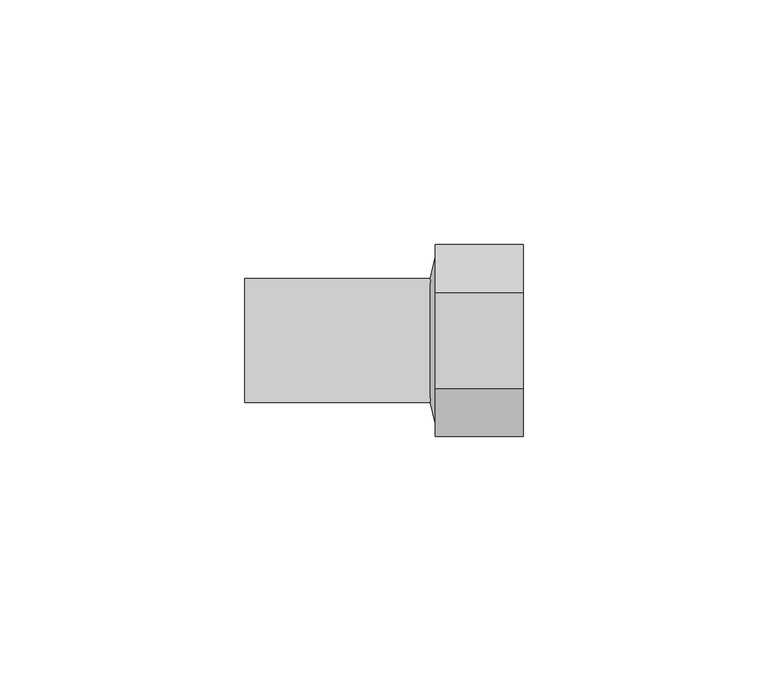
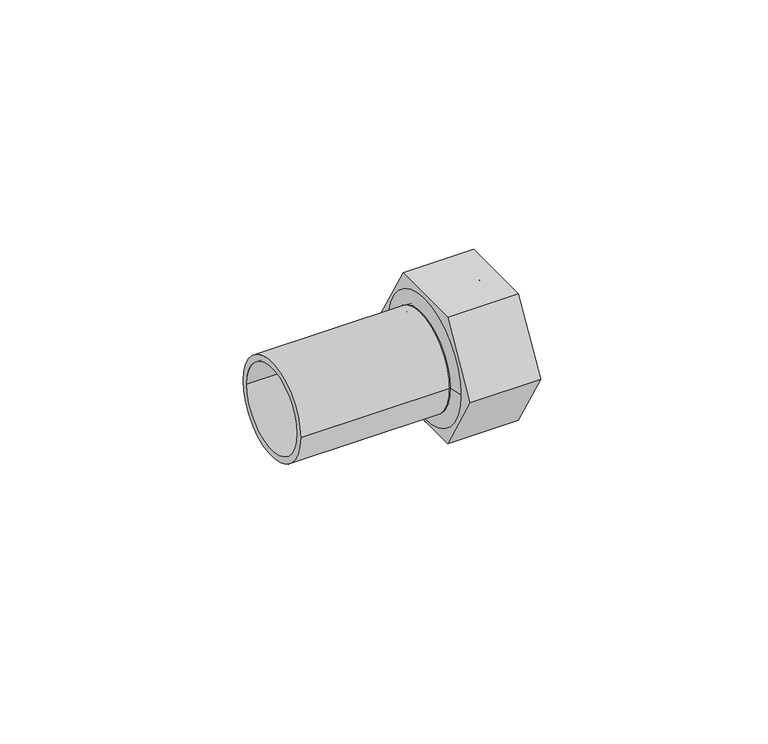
"""IFC4 building model written with IfcOpenShell, lengths in millimetres: pipe fitting geometry, VALTEC_VTi.907.I_Вставка с внутренней резьбой_Нержавеющая сталь : VTi.907.I."""

from ifc_helpers import new_model, si_unit, point, frame, origin, origin_2d, place, context, project, spatial, polyline, circle_curve, trimmed, segment, composite_curve, outline, extrude, source, transform, mapped, element, save
from ifc_brep_helpers import plane_surface, revolved_surface, advanced_brep


def pipe_fitting_86c83f39(model_context):
    return source(origin(), model_context, "Body", "SolidModel", [
        extrude(outline(polyline([(-19.6299092, 0.0), (-9.8149546, 17.0), (9.8149546, 17.0), (19.6299092, 0.0), (9.8149546, -17.0), (-9.8149546, -17.0), (-19.6299092, 0.0)]), holes=[composite_curve([segment(trimmed(circle_curve(origin_2d(), 12.5), [point((12.5, 0.0))], [point((-12.5, 0.0))], True, "CARTESIAN"), True, "CONTINUOUS"), segment(trimmed(circle_curve(origin_2d(), 12.5), [point((-12.5, 0.0))], [point((12.5, 0.0))], True, "CARTESIAN"), True, "CONTINUOUS")], self_intersect=False)]), frame((-9.0, 0.0, 0.0), z_axis=(1.0, 0.0, 0.0), x_axis=(0.0, 1.0, 0.0)), (0.0, 0.0, 1.0), 18.0),
        advanced_brep(
        [(-9.0, -17.0, 0.0), (-9.0, 17.0, 0.0), (-10.0, -12.65, 0.0), (-10.0, 12.65, 0.0)],
        [
            (0, 1, circle_curve(frame((-9.0, 0.0, 0.0), z_axis=(1.0, 0.0, 0.0), x_axis=(0.0, -1.0, 0.0)), 17.0)),
            (1, 0, circle_curve(frame((-9.0, 0.0, 0.0), z_axis=(1.0, 0.0, 0.0), x_axis=(0.0, 1.0, 0.0)), 17.0)),
            (2, 3, circle_curve(frame((-10.0, 0.0, 0.0), z_axis=(-1.0, 0.0, 0.0), x_axis=(0.0, 1.0, 0.0)), 12.65)),
            (3, 2, circle_curve(frame((-10.0, 0.0, 0.0), z_axis=(-1.0, 0.0, 0.0), x_axis=(0.0, -1.0, 0.0)), 12.65)),
            (3, 1),
            (0, 2),
        ],
        [
            plane_surface(frame((-9.0, 0.0, 0.0), z_axis=(1.0, 0.0, 0.0), x_axis=(0.0, 0.0, -1.0))),
            plane_surface(frame((-10.0, 0.0, 0.0), z_axis=(-1.0, 0.0, 0.0), x_axis=(0.0, 0.0, -1.0))),
            revolved_surface(polyline([(-10.0, 12.650000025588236, 0.0), (-9.0, 17.0, 0.0)]), (-12.908046, 0.0, 0.0), (1.0, 0.0, 0.0)),
            revolved_surface(polyline([(-10.0, -12.650000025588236, 0.0), (-9.0, -17.0, 0.0)]), (-12.908046, 0.0, 0.0), (1.0, 0.0, 0.0)),
        ],
        [
            (0, [[1, 2]]),
            (1, [[3, 4]]),
            (2, [[-4, 5, -1, 6]]),
            (3, [[-3, -6, -2, -5]]),
        ],
    ),
        extrude(outline(composite_curve([segment(trimmed(circle_curve(origin_2d(), 12.65), [point((-12.65, 0.0))], [point((12.65, 0.0))], False, "CARTESIAN"), True, "CONTINUOUS"), segment(trimmed(circle_curve(origin_2d(), 12.65), [point((12.65, 0.0))], [point((-12.65, 0.0))], False, "CARTESIAN"), True, "CONTINUOUS")], self_intersect=False), holes=[composite_curve([segment(trimmed(circle_curve(origin_2d(), 11.0), [point((-11.0, 0.0))], [point((11.0, 0.0))], True, "CARTESIAN"), True, "CONTINUOUS"), segment(trimmed(circle_curve(origin_2d(), 11.0), [point((11.0, 0.0))], [point((-11.0, 0.0))], True, "CARTESIAN"), True, "CONTINUOUS")], self_intersect=False)]), frame((-48.0, 0.0, 0.0), z_axis=(1.0, 0.0, 0.0), x_axis=(0.0, 1.0, 0.0)), (0.0, 0.0, 1.0), 38.0),
    ])


if __name__ == "__main__":
    model = new_model("IFC4")
    model_context = context("Model", 3, world=origin())
    ifc_project = project(units=[si_unit("LENGTHUNIT", "METRE", prefix="MILLI")], contexts=[model_context])
    site = spatial("IfcSite", under=ifc_project)
    building = spatial("IfcBuilding", under=site)
    placement = place(None, origin())
    pipe_fitting_shape = pipe_fitting_86c83f39(model_context)
    element("IfcPipeFitting", 1, ObjectType="VALTEC_VTi.907.I_Вставка с внутренней резьбой_Нержавеющая сталь : VTi.907.I", at=placement, inside=building, context=model_context, shape_type="MappedRepresentation", body=[
        mapped(pipe_fitting_shape, transform((0.0, 0.0, 0.0), x_axis=(1.0, 0.0, 0.0), y_axis=(0.0, 1.0, 0.0), z_axis=(0.0, 0.0, 1.0))),
    ])
    save(model, "model.ifc")
